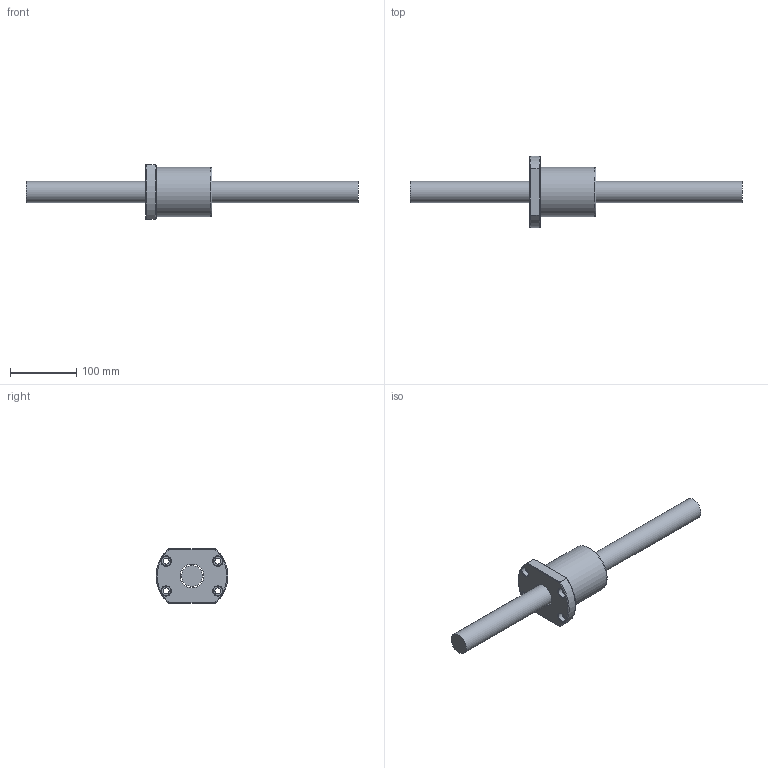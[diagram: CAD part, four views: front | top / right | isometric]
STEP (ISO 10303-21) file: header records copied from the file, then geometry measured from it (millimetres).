
FILE_DESCRIPTION (( 'STEP AP203' ), '1' );
FILE_NAME ('SFV03220D-2.7.step', '2024-05-20T03:39:22', ( '' ), ( '' ), 'SwSTEP 2.0', 'SolidWorks 2022', '' );
FILE_SCHEMA (( 'CONFIG_CONTROL_DESIGN' ));
Length unit declared in the file: millimetre
Products named in the file (1): SFV03220D-2.7
Bounding box: 500 x 108 x 82 mm (x, y, z)
Volume: 783844.6 mm3; surface area: 103504 mm2
Topology: 2 solids, 2 shells, 56 faces, 148 edges, 97 vertices
Faces by surface type: cylinder 21, plane 16, cone 9, bspline 5, torus 5
Full cylindrical faces by diameter (mm): 4 x1, 7 x6, 9 x4, 14 x4, 32 x1, 35.7 x1, 74.2 x1
Entity records: 3988 total; most frequent: CARTESIAN_POINT 2896, DIRECTION 196, ORIENTED_EDGE 186, EDGE_CURVE 93, AXIS2_PLACEMENT_3D 91, EDGE_LOOP 86, VERTEX_POINT 73, FACE_OUTER_BOUND 64
